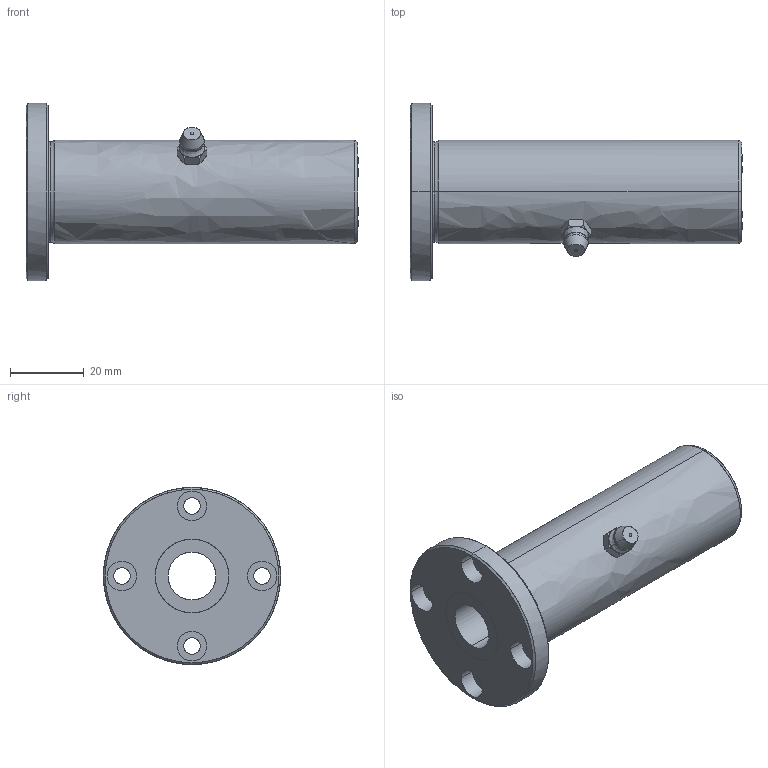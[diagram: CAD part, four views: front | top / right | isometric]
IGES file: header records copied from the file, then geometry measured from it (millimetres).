
Global section: file name: No Iges File Name specified; native system: AutoDesk Inventor R10; preprocessor: AutoDesk Inventor Iges Exporter R10; author: No Author specified; organization: No Organization specified; date: 20101211.161647; units: millimetre
Bounding box: 90 x 48 x 48 mm (x, y, z)
Surface area: 15822.6 mm2 (no closed solid volume)
Topology: 0 solids, 0 shells, 83 faces, 548 edges, 546 vertices
Faces by surface type: bspline 83
